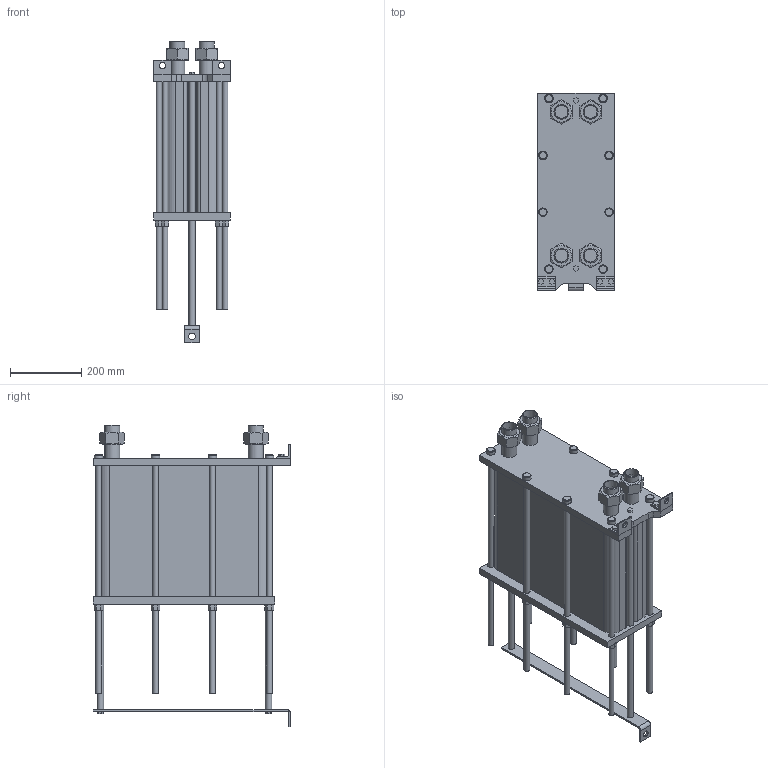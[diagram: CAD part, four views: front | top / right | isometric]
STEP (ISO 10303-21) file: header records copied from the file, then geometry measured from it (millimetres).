
FILE_DESCRIPTION(/* description */ (''),/* implementation_level */ '2;1');
FILE_NAME(/* name */ 'C:\Users\zhuro\Desktop\ENCO\TO\ЭН-004\ЭН-0,5-004-119-1.stp',/* time_stamp */ '2022-06-06T10:54:29+03:00',/* author */ ('zhuro'),/* organization */ (''),/* preprocessor_version */ 'ST-DEVELOPER v18.1',/* originating_system */ 'Autodesk Inventor 2022',/* authorisation */ '');
FILE_SCHEMA (('AUTOMOTIVE_DESIGN { 1 0 10303 214 3 1 1 }'));
Length unit declared in the file: millimetre
Products named in the file (1): ЭН-0,5-004-119-1
Bounding box: 216 x 555 x 848.2 mm (x, y, z)
Volume: 33487324.6 mm3; surface area: 1757332 mm2
Topology: 40 solids, 40 shells, 403 faces, 865 edges, 574 vertices
Faces by surface type: plane 272, cylinder 103, cone 28
Full cylindrical faces by diameter (mm): 10 x4, 16 x16, 18 x29, 20 x2, 24 x8, 28 x8, 36.3 x5, 42.3 x9
Entity records: 11137 total; most frequent: CARTESIAN_POINT 1939, DIRECTION 1879, ORIENTED_EDGE 1730, EDGE_CURVE 865, AXIS2_PLACEMENT_3D 658, VERTEX_POINT 574, LINE 563, VECTOR 563
